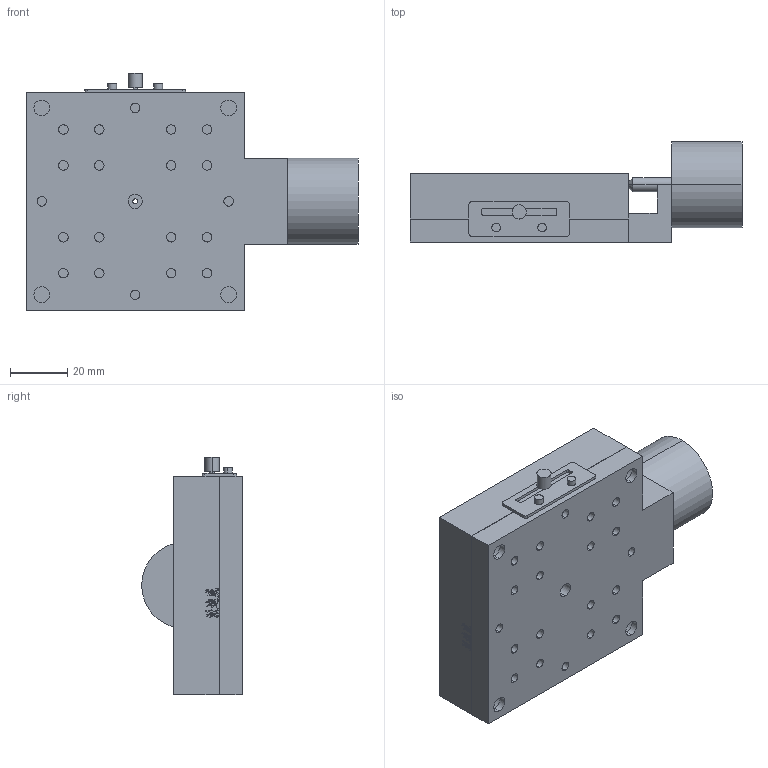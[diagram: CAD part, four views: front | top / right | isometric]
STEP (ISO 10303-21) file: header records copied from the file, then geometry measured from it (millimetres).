
FILE_DESCRIPTION (( 'STEP AP214' ), '1' );
FILE_NAME ('PT76-13G.STEP', '2022-09-12T03:07:42', ( '' ), ( '' ), 'SwSTEP 2.0', 'SolidWorks 2017', '' );
FILE_SCHEMA (( 'AUTOMOTIVE_DESIGN' ));
Length unit declared in the file: millimetre
Products named in the file (3): PT76-13G; 奻釱; 菁釱
Assembly tree (2 placements, depth 2):
  PT76-13G
    菁釱
    奻釱
Bounding box: 115.5 x 35 x 82.5 mm (x, y, z)
Volume: 156842.4 mm3; surface area: 41047 mm2
Topology: 2 solids, 2 shells, 1153 faces, 3240 edges, 2118 vertices
Faces by surface type: plane 729, bspline 252, cylinder 124, cone 48
Entity records: 48212 total; most frequent: CARTESIAN_POINT 19028, ORIENTED_EDGE 6392, DIRECTION 4756, EDGE_CURVE 3196, VECTOR 2440, LINE 2440, VERTEX_POINT 2118, EDGE_LOOP 1276
